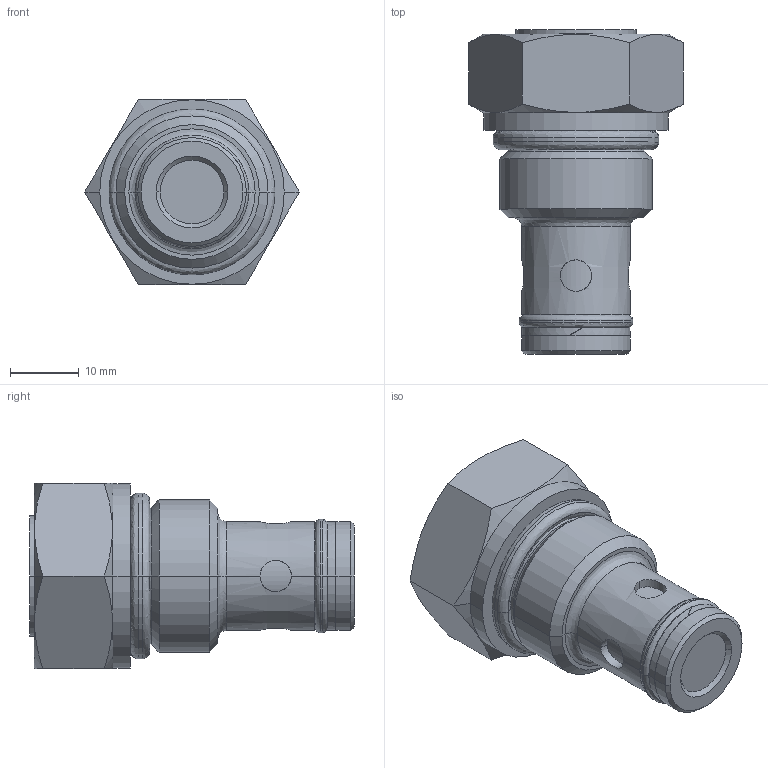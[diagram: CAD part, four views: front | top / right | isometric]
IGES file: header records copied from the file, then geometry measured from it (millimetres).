
Start section:  PTC IGES file: CVFB-10-_-_.igs
Global section: file name: CVFB-10-_-_.igs; native system: Creo Elements/Pro by Parametric Technology Corporation; preprocessor: 2015070; author: torrese; organization: Unknown; date: 20151202.162800; units: inch
Bounding box: 31.15 x 47.12 x 26.97 mm (x, y, z)
Volume: 17272.4 mm3; surface area: 5050.1 mm2
Topology: 1 solids, 1 shells, 91 faces, 196 edges, 118 vertices
Faces by surface type: revolution 65, bspline 26
